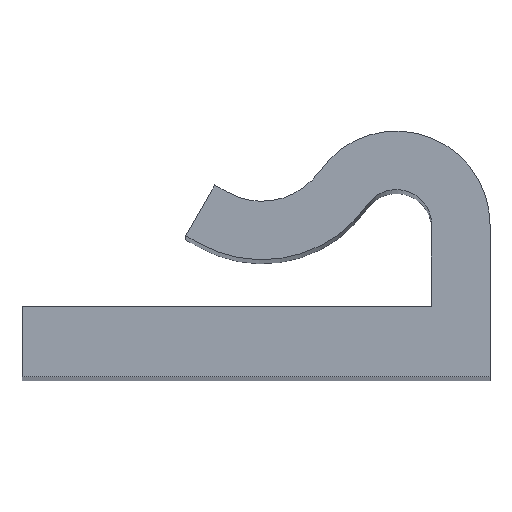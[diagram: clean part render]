
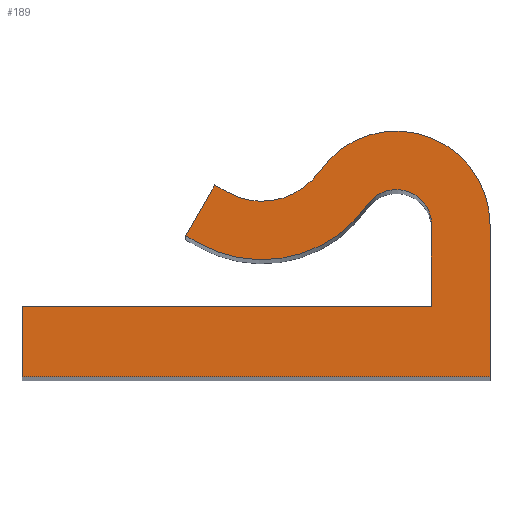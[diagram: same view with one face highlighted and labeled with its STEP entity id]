
A CAD part, top view. The second image highlights one B-rep face of the part: STEP entity #189.
In plain terms, the highlighted planar face has unit normal (0, 0, 1).
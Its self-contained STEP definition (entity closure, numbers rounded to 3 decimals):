
#5 = EDGE_CURVE ( 'NONE', #49, #52, #223, .T. ) ;
#7 = VERTEX_POINT ( 'NONE', #220 ) ;
#14 = EDGE_CURVE ( 'NONE', #52, #7, #99, .T. ) ;
#22 = EDGE_CURVE ( 'NONE', #7, #27, #194, .T. ) ;
#27 = VERTEX_POINT ( 'NONE', #203 ) ;
#30 = VERTEX_POINT ( 'NONE', #249 ) ;
#33 = EDGE_CURVE ( 'NONE', #87, #30, #251, .T. ) ;
#49 = VERTEX_POINT ( 'NONE', #254 ) ;
#52 = VERTEX_POINT ( 'NONE', #180 ) ;
#59 = EDGE_CURVE ( 'NONE', #27, #87, #175, .T. ) ;
#60 = VERTEX_POINT ( 'NONE', #179 ) ;
#68 = EDGE_CURVE ( 'NONE', #148, #110, #280, .T. ) ;
#78 = ORIENTED_EDGE ( 'NONE', *, *, #274, .T. ) ;
#79 = ORIENTED_EDGE ( 'NONE', *, *, #22, .T. ) ;
#80 = ORIENTED_EDGE ( 'NONE', *, *, #59, .T. ) ;
#85 = EDGE_CURVE ( 'NONE', #110, #60, #400, .T. ) ;
#87 = VERTEX_POINT ( 'NONE', #390 ) ;
#95 = DIRECTION ( 'NONE',  ( 1., 0., 0. ) ) ;
#96 = VECTOR ( 'NONE', #95, 1000. ) ;
#98 = CARTESIAN_POINT ( 'NONE',  ( 0., 0., 100. ) ) ;
#99 = LINE ( 'NONE', #98, #96 ) ;
#109 = EDGE_CURVE ( 'NONE', #134, #148, #432, .T. ) ;
#110 = VERTEX_POINT ( 'NONE', #363 ) ;
#119 = ORIENTED_EDGE ( 'NONE', *, *, #133, .T. ) ;
#121 = ORIENTED_EDGE ( 'NONE', *, *, #68, .T. ) ;
#122 = ORIENTED_EDGE ( 'NONE', *, *, #130, .T. ) ;
#126 = ORIENTED_EDGE ( 'NONE', *, *, #109, .T. ) ;
#127 = ORIENTED_EDGE ( 'NONE', *, *, #229, .T. ) ;
#128 = ORIENTED_EDGE ( 'NONE', *, *, #85, .T. ) ;
#129 = EDGE_LOOP ( 'NONE', ( #131, #188, #79, #80, #146, #127, #78, #119, #126, #121, #128, #122 ) ) ;
#130 = EDGE_CURVE ( 'NONE', #60, #49, #371, .T. ) ;
#131 = ORIENTED_EDGE ( 'NONE', *, *, #5, .T. ) ;
#133 = EDGE_CURVE ( 'NONE', #138, #134, #411, .T. ) ;
#134 = VERTEX_POINT ( 'NONE', #412 ) ;
#138 = VERTEX_POINT ( 'NONE', #417 ) ;
#146 = ORIENTED_EDGE ( 'NONE', *, *, #33, .T. ) ;
#148 = VERTEX_POINT ( 'NONE', #314 ) ;
#155 = CARTESIAN_POINT ( 'NONE',  ( 0., 0., 100. ) ) ;
#164 = DIRECTION ( 'NONE',  ( 1., 0., 0. ) ) ;
#165 = DIRECTION ( 'NONE',  ( 0., 0., 1. ) ) ;
#166 = CARTESIAN_POINT ( 'NONE',  ( 16., 6.5, 100. ) ) ;
#167 = AXIS2_PLACEMENT_3D ( 'NONE', #166, #165, #164 ) ;
#175 = CIRCLE ( 'NONE', #167, 4. ) ;
#179 = CARTESIAN_POINT ( 'NONE',  ( 17.5, 3., 100. ) ) ;
#180 = CARTESIAN_POINT ( 'NONE',  ( 0., 0., 100. ) ) ;
#188 = ORIENTED_EDGE ( 'NONE', *, *, #14, .T. ) ;
#189 = ADVANCED_FACE ( 'NONE', ( #316 ), #317, .T. ) ;
#192 = VECTOR ( 'NONE', #273, 1000. ) ;
#193 = CARTESIAN_POINT ( 'NONE',  ( 20., 0., 100. ) ) ;
#194 = LINE ( 'NONE', #193, #192 ) ;
#203 = CARTESIAN_POINT ( 'NONE',  ( 20., 6.5, 100. ) ) ;
#220 = CARTESIAN_POINT ( 'NONE',  ( 20., 0., 100. ) ) ;
#221 = DIRECTION ( 'NONE',  ( 0., -1., 0. ) ) ;
#222 = VECTOR ( 'NONE', #221, 1000. ) ;
#223 = LINE ( 'NONE', #155, #222 ) ;
#227 = VERTEX_POINT ( 'NONE', #352 ) ;
#229 = EDGE_CURVE ( 'NONE', #30, #227, #425, .T. ) ;
#244 = DIRECTION ( 'NONE',  ( 1., 0., 0. ) ) ;
#245 = DIRECTION ( 'NONE',  ( 0., 0., -1. ) ) ;
#246 = CARTESIAN_POINT ( 'NONE',  ( 10.255, 10.5, 100. ) ) ;
#247 = AXIS2_PLACEMENT_3D ( 'NONE', #246, #245, #244 ) ;
#249 = CARTESIAN_POINT ( 'NONE',  ( 8.769, 7.894, 100. ) ) ;
#251 = CIRCLE ( 'NONE', #247, 3. ) ;
#254 = CARTESIAN_POINT ( 'NONE',  ( 0., 3., 100. ) ) ;
#273 = DIRECTION ( 'NONE',  ( 0., 1., 0. ) ) ;
#274 = EDGE_CURVE ( 'NONE', #227, #138, #422, .T. ) ;
#280 = CIRCLE ( 'NONE', #358, 1.5 ) ;
#284 = DIRECTION ( 'NONE',  ( 1., 0., 0. ) ) ;
#285 = DIRECTION ( 'NONE',  ( 0., 0., 1. ) ) ;
#304 = DIRECTION ( 'NONE',  ( -0.496, -0.869, 0. ) ) ;
#305 = VECTOR ( 'NONE', #304, 1000. ) ;
#310 = DIRECTION ( 'NONE',  ( 0., 0., 1. ) ) ;
#314 = CARTESIAN_POINT ( 'NONE',  ( 14.769, 7.357, 100. ) ) ;
#316 = FACE_OUTER_BOUND ( 'NONE', #129, .T. ) ;
#317 = PLANE ( 'NONE',  #333 ) ;
#333 = AXIS2_PLACEMENT_3D ( 'NONE', #342, #310, #341 ) ;
#341 = DIRECTION ( 'NONE',  ( 1., 0., 0. ) ) ;
#342 = CARTESIAN_POINT ( 'NONE',  ( 16., 6.5, 100. ) ) ;
#351 = CARTESIAN_POINT ( 'NONE',  ( 7., 6.025, 100. ) ) ;
#352 = CARTESIAN_POINT ( 'NONE',  ( 8.239, 8.197, 100. ) ) ;
#358 = AXIS2_PLACEMENT_3D ( 'NONE', #398, #397, #385 ) ;
#363 = CARTESIAN_POINT ( 'NONE',  ( 17.5, 6.5, 100. ) ) ;
#368 = CARTESIAN_POINT ( 'NONE',  ( 10.255, 10.5, 100. ) ) ;
#370 = CARTESIAN_POINT ( 'NONE',  ( 0., 3., 100. ) ) ;
#371 = LINE ( 'NONE', #370, #414 ) ;
#385 = DIRECTION ( 'NONE',  ( 1., 0., 0. ) ) ;
#390 = CARTESIAN_POINT ( 'NONE',  ( 12.717, 8.786, 100. ) ) ;
#391 = DIRECTION ( 'NONE',  ( 0., -1., 0. ) ) ;
#392 = AXIS2_PLACEMENT_3D ( 'NONE', #368, #285, #284 ) ;
#397 = DIRECTION ( 'NONE',  ( 0., 0., -1. ) ) ;
#398 = CARTESIAN_POINT ( 'NONE',  ( 16., 6.5, 100. ) ) ;
#400 = LINE ( 'NONE', #405, #404 ) ;
#404 = VECTOR ( 'NONE', #391, 1000. ) ;
#405 = CARTESIAN_POINT ( 'NONE',  ( 17.5, 3., 100. ) ) ;
#409 = DIRECTION ( 'NONE',  ( 0.869, -0.496, 0. ) ) ;
#410 = VECTOR ( 'NONE', #409, 1000. ) ;
#411 = LINE ( 'NONE', #419, #410 ) ;
#412 = CARTESIAN_POINT ( 'NONE',  ( 7.53, 5.723, 100. ) ) ;
#413 = DIRECTION ( 'NONE',  ( -1., 0., 0. ) ) ;
#414 = VECTOR ( 'NONE', #413, 1000. ) ;
#417 = CARTESIAN_POINT ( 'NONE',  ( 7., 6.025, 100. ) ) ;
#419 = CARTESIAN_POINT ( 'NONE',  ( 7., 6.025, 100. ) ) ;
#422 = LINE ( 'NONE', #351, #305 ) ;
#423 = DIRECTION ( 'NONE',  ( -0.869, 0.496, 0. ) ) ;
#424 = VECTOR ( 'NONE', #423, 1000. ) ;
#425 = LINE ( 'NONE', #427, #424 ) ;
#427 = CARTESIAN_POINT ( 'NONE',  ( 8.239, 8.197, 100. ) ) ;
#432 = CIRCLE ( 'NONE', #392, 5.5 ) ;
